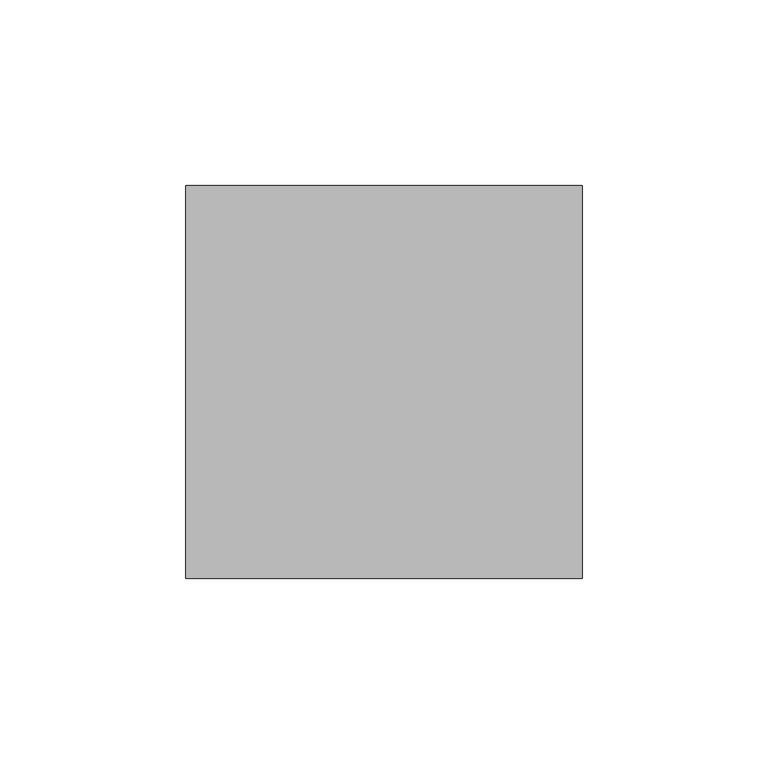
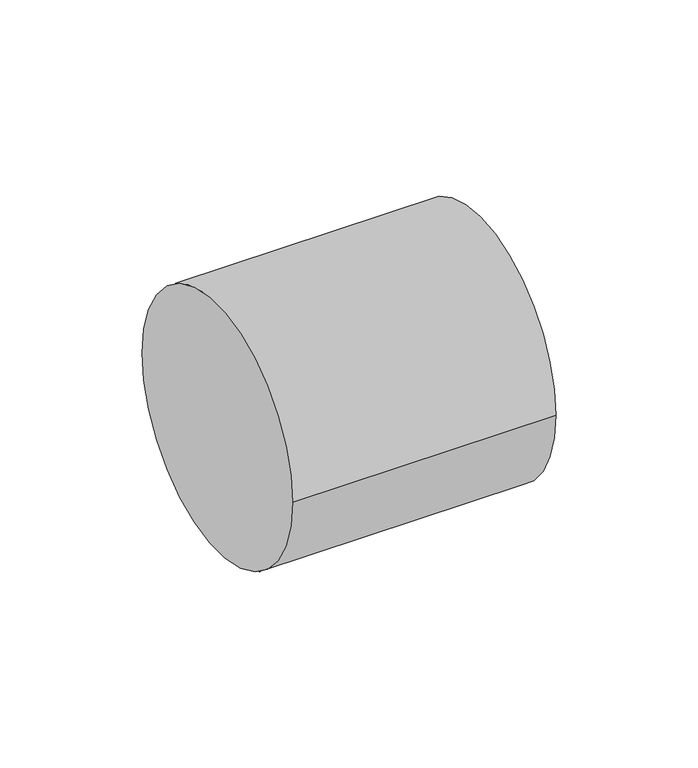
"""IFC4 building model written with IfcOpenShell, lengths in millimetres: pipe fitting geometry, 01051005 : Manchons égaux."""

from ifc_helpers import new_model, si_unit, point, frame, origin, origin_2d, place, context, project, spatial, circle_curve, trimmed, segment, composite_curve, outline, extrude, source, transform, mapped, element, save


def pipe_fitting_af0bf5c1(model_context):
    return source(origin(), model_context, "Body", "SweptSolid", [
        extrude(outline(composite_curve([segment(trimmed(circle_curve(origin_2d(), 53.0), [point((-53.0, 0.0))], [point((53.0, 0.0))], False, "CARTESIAN"), True, "CONTINUOUS"), segment(trimmed(circle_curve(origin_2d(), 53.0), [point((53.0, 0.0))], [point((-53.0, 0.0))], False, "CARTESIAN"), True, "CONTINUOUS")], self_intersect=False)), frame((-53.5, 0.0, 0.0), z_axis=(1.0, 0.0, 0.0), x_axis=(0.0, 1.0, 0.0)), (0.0, 0.0, 1.0), 107.0),
    ])


if __name__ == "__main__":
    model = new_model("IFC4")
    model_context = context("Model", 3, world=origin())
    ifc_project = project(units=[si_unit("LENGTHUNIT", "METRE", prefix="MILLI")], contexts=[model_context])
    site = spatial("IfcSite", under=ifc_project)
    building = spatial("IfcBuilding", under=site)
    placement = place(None, origin())
    pipe_fitting_shape = pipe_fitting_af0bf5c1(model_context)
    element("IfcPipeFitting", 1, ObjectType="01051005 : Manchons égaux", at=placement, inside=building, context=model_context, shape_type="MappedRepresentation", body=[
        mapped(pipe_fitting_shape, transform((0.0, 0.0, 0.0), x_axis=(1.0, 0.0, 0.0), y_axis=(0.0, 1.0, 0.0), z_axis=(0.0, 0.0, 1.0))),
    ])
    save(model, "model.ifc")
